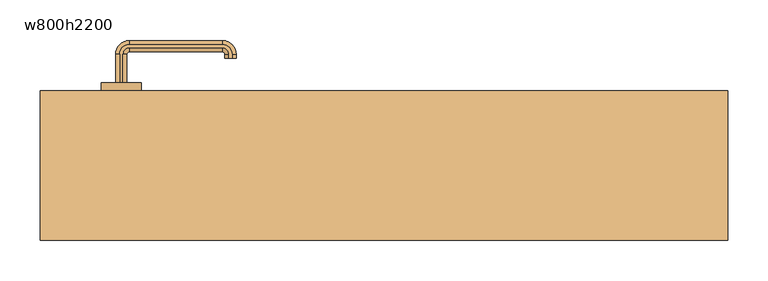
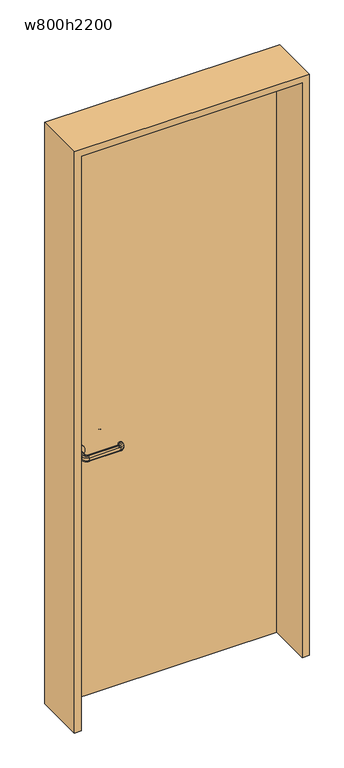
"""IFC4 building model written with IfcOpenShell, lengths in millimetres: door geometry, 片開き : w800h2200."""

from ifc_helpers import new_model, si_unit, point, frame, frame_2d, origin, origin_with_axes, place, context, project, spatial, polyline, circle_curve, ellipse_curve, trimmed, segment, composite_curve, outline, extrude, source, transform, mapped, element, save
from ifc_brep_helpers import plane_surface, cylinder_surface, revolved_surface, advanced_brep


def w800h2200_114c1d1d(model_context):
    return source(origin(), model_context, "Body", "SolidModel", [
        advanced_brep(
        [(-327.0, 102.5, 960.0), (-332.0, 102.5, 955.0), (-332.0, 102.5, 945.0477623), (-327.0, 102.5, 940.0477623), (-323.0, 102.5, 940.0477623), (-318.0, 102.5, 945.0477623), (-318.0, 102.5, 955.0), (-323.0, 102.5, 960.0), (-327.0, 137.5, 960.0), (-332.0, 137.5, 955.0), (-332.0, 137.5, 945.0477623), (-327.0, 137.5, 940.0477623), (-315.0, 149.5, 940.0477623), (-200.0, 149.5, 940.0477623), (-188.0, 137.5, 940.0477623), (-188.0, 132.5, 940.0477623), (-192.0, 132.5, 940.0477623), (-192.0, 137.5, 940.0477623), (-200.0, 145.5, 940.0477623), (-315.0, 145.5, 940.0477623), (-323.0, 137.5, 940.0477623), (-318.0, 137.5, 945.0477623), (-318.0, 137.5, 955.0), (-323.0, 137.5, 960.0), (-315.0, 145.5, 960.0), (-200.0, 145.5, 960.0), (-192.0, 137.5, 960.0), (-192.0, 132.5, 960.0), (-188.0, 132.5, 960.0), (-188.0, 137.5, 960.0), (-200.0, 149.5, 960.0), (-315.0, 149.5, 960.0), (-315.0, 154.5, 955.0), (-315.0, 154.5, 945.0477623), (-315.0, 140.5, 945.0477623), (-315.0, 140.5, 955.0), (-200.0, 154.5, 955.0), (-200.0, 154.5, 945.0477623), (-200.0, 140.5, 945.0477623), (-200.0, 140.5, 955.0), (-183.0, 137.5, 955.0), (-183.0, 137.5, 945.0477623), (-197.0, 137.5, 945.0477623), (-197.0, 137.5, 955.0), (-197.0, 132.5, 955.0), (-197.0, 132.5, 945.0477623), (-183.0, 132.5, 945.0477623), (-183.0, 132.5, 955.0)],
        [
            (0, 1, circle_curve(frame((-327.0, 102.5, 955.0), z_axis=(0.0, -1.0, 0.0), x_axis=(-1.0, 0.0, 0.0)), 5.0)),
            (1, 2),
            (2, 3, circle_curve(frame((-327.0, 102.5, 945.0477623), z_axis=(0.0, -1.0, 0.0), x_axis=(-1.0, 0.0, 0.0)), 5.0)),
            (3, 4),
            (4, 5, circle_curve(frame((-323.0, 102.5, 945.0477623), z_axis=(0.0, -1.0, 0.0), x_axis=(-1.0, 0.0, 0.0)), 5.0)),
            (5, 6),
            (6, 7, circle_curve(frame((-323.0, 102.5, 955.0), z_axis=(0.0, -1.0, 0.0), x_axis=(-1.0, 0.0, 0.0)), 5.0)),
            (7, 0),
            (0, 8),
            (8, 9, circle_curve(frame((-327.0, 137.5, 955.0), z_axis=(0.0, -1.0, 0.0), x_axis=(-1.0, 0.0, 0.0)), 5.0)),
            (9, 1),
            (9, 10),
            (10, 2),
            (10, 11, circle_curve(frame((-327.0, 137.5, 945.0477623), z_axis=(0.0, -1.0, 0.0), x_axis=(-1.0, 0.0, 0.0)), 5.0)),
            (11, 3),
            (11, 12, circle_curve(frame((-315.0, 137.5, 940.0477623), z_axis=(0.0, 0.0, -1.0), x_axis=(-1.0, 0.0, 0.0)), 12.0)),
            (12, 13),
            (13, 14, circle_curve(frame((-200.0, 137.5, 940.0477623), z_axis=(0.0, 0.0, -1.0), x_axis=(0.0, 1.0, 0.0)), 12.0)),
            (14, 15),
            (15, 16),
            (16, 17),
            (17, 18, circle_curve(frame((-200.0, 137.5, 940.0477623), z_axis=(0.0, 0.0, 1.0), x_axis=(0.0, 1.0, 0.0)), 8.0)),
            (18, 19),
            (19, 20, circle_curve(frame((-315.0, 137.5, 940.0477623), z_axis=(0.0, 0.0, 1.0), x_axis=(-1.0, 0.0, 0.0)), 8.0)),
            (20, 4),
            (20, 21, circle_curve(frame((-323.0, 137.5, 945.0477623), z_axis=(0.0, -1.0, 0.0), x_axis=(-1.0, 0.0, 0.0)), 5.0)),
            (21, 5),
            (21, 22),
            (22, 6),
            (22, 23, circle_curve(frame((-323.0, 137.5, 955.0), z_axis=(0.0, -1.0, 0.0), x_axis=(-1.0, 0.0, 0.0)), 5.0)),
            (23, 7),
            (23, 24, circle_curve(frame((-315.0, 137.5, 960.0), z_axis=(0.0, 0.0, -1.0), x_axis=(-1.0, 0.0, 0.0)), 8.0)),
            (24, 25),
            (25, 26, circle_curve(frame((-200.0, 137.5, 960.0), z_axis=(0.0, 0.0, -1.0), x_axis=(0.0, 1.0, 0.0)), 8.0)),
            (26, 27),
            (27, 28),
            (28, 29),
            (29, 30, circle_curve(frame((-200.0, 137.5, 960.0), z_axis=(0.0, 0.0, 1.0), x_axis=(0.0, 1.0, 0.0)), 12.0)),
            (30, 31),
            (31, 8, circle_curve(frame((-315.0, 137.5, 960.0), z_axis=(0.0, 0.0, 1.0), x_axis=(-1.0, 0.0, 0.0)), 12.0)),
            (32, 9, circle_curve(frame((-315.0, 137.5, 955.0), z_axis=(0.0, 0.0, 1.0), x_axis=(-1.0, 0.0, 0.0)), 17.0)),
            (31, 32, circle_curve(frame((-315.0, 149.5, 955.0), z_axis=(-1.0, 0.0, 0.0), x_axis=(0.0, 1.0, 0.0)), 5.0)),
            (33, 10, circle_curve(frame((-315.0, 137.5, 945.0477623), z_axis=(0.0, 0.0, 1.0), x_axis=(-1.0, 0.0, 0.0)), 17.0)),
            (32, 33),
            (33, 12, circle_curve(frame((-315.0, 149.5, 945.0477623), z_axis=(-1.0, 0.0, 0.0), x_axis=(0.0, 1.0, 0.0)), 5.0)),
            (34, 21, circle_curve(frame((-315.0, 137.5, 945.0477623), z_axis=(0.0, 0.0, 1.0), x_axis=(-1.0, 0.0, 0.0)), 3.0)),
            (19, 34, circle_curve(frame((-315.0, 145.5, 945.0477623), z_axis=(-1.0, 0.0, 0.0), x_axis=(0.0, 1.0, 0.0)), 5.0)),
            (35, 22, circle_curve(frame((-315.0, 137.5, 955.0), z_axis=(0.0, 0.0, 1.0), x_axis=(-1.0, 0.0, 0.0)), 3.0)),
            (34, 35),
            (35, 24, circle_curve(frame((-315.0, 145.5, 955.0), z_axis=(-1.0, 0.0, 0.0), x_axis=(0.0, 1.0, 0.0)), 5.0)),
            (30, 36, circle_curve(frame((-200.0, 149.5, 955.0), z_axis=(-1.0, 0.0, 0.0), x_axis=(0.0, 1.0, 0.0)), 5.0)),
            (36, 32),
            (36, 37),
            (37, 33),
            (37, 13, circle_curve(frame((-200.0, 149.5, 945.0477623), z_axis=(-1.0, 0.0, 0.0), x_axis=(0.0, 1.0, 0.0)), 5.0)),
            (18, 38, circle_curve(frame((-200.0, 145.5, 945.0477623), z_axis=(-1.0, 0.0, 0.0), x_axis=(0.0, 1.0, 0.0)), 5.0)),
            (38, 34),
            (38, 39),
            (39, 35),
            (39, 25, circle_curve(frame((-200.0, 145.5, 955.0), z_axis=(-1.0, 0.0, 0.0), x_axis=(0.0, 1.0, 0.0)), 5.0)),
            (40, 36, circle_curve(frame((-200.0, 137.5, 955.0), z_axis=(0.0, 0.0, 1.0), x_axis=(0.0, 1.0, 0.0)), 17.0)),
            (29, 40, circle_curve(frame((-188.0, 137.5, 955.0), z_axis=(0.0, 1.0, 0.0), x_axis=(1.0, 0.0, 0.0)), 5.0)),
            (41, 37, circle_curve(frame((-200.0, 137.5, 945.0477623), z_axis=(0.0, 0.0, 1.0), x_axis=(0.0, 1.0, 0.0)), 17.0)),
            (40, 41),
            (41, 14, circle_curve(frame((-188.0, 137.5, 945.0477623), z_axis=(0.0, 1.0, 0.0), x_axis=(1.0, 0.0, 0.0)), 5.0)),
            (42, 38, circle_curve(frame((-200.0, 137.5, 945.0477623), z_axis=(0.0, 0.0, 1.0), x_axis=(0.0, 1.0, 0.0)), 3.0)),
            (17, 42, circle_curve(frame((-192.0, 137.5, 945.0477623), z_axis=(0.0, 1.0, 0.0), x_axis=(1.0, 0.0, 0.0)), 5.0)),
            (43, 39, circle_curve(frame((-200.0, 137.5, 955.0), z_axis=(0.0, 0.0, 1.0), x_axis=(0.0, 1.0, 0.0)), 3.0)),
            (42, 43),
            (43, 26, circle_curve(frame((-192.0, 137.5, 955.0), z_axis=(0.0, 1.0, 0.0), x_axis=(1.0, 0.0, 0.0)), 5.0)),
            (27, 44, circle_curve(frame((-192.0, 132.5, 955.0), z_axis=(0.0, -1.0, 0.0), x_axis=(1.0, 0.0, 0.0)), 5.0)),
            (44, 45),
            (45, 16, circle_curve(frame((-192.0, 132.5, 945.0477623), z_axis=(0.0, -1.0, 0.0), x_axis=(1.0, 0.0, 0.0)), 5.0)),
            (15, 46, circle_curve(frame((-188.0, 132.5, 945.0477623), z_axis=(0.0, -1.0, 0.0), x_axis=(1.0, 0.0, 0.0)), 5.0)),
            (46, 47),
            (47, 28, circle_curve(frame((-188.0, 132.5, 955.0), z_axis=(0.0, -1.0, 0.0), x_axis=(1.0, 0.0, 0.0)), 5.0)),
            (47, 40),
            (46, 41),
            (45, 42),
            (44, 43),
        ],
        [
            plane_surface(frame((-335.198039, 102.5, 950.0), z_axis=(0.0, -1.0, 0.0), x_axis=(0.0, 0.0, 1.0))),
            cylinder_surface(frame((-327.0, 102.5, 955.0), z_axis=(0.0, -1.0, 0.0), x_axis=(-1.0, 0.0, 0.0)), 5.0),
            plane_surface(frame((-332.0, 102.5, 955.0), z_axis=(-1.0, 0.0, 0.0), x_axis=(0.0, 1.0, 0.0))),
            cylinder_surface(frame((-327.0, 102.5, 945.0477623), z_axis=(0.0, -1.0, 0.0), x_axis=(-1.0, 0.0, 0.0)), 5.0),
            plane_surface(frame((-327.0, 102.5, 940.0477623), z_axis=(0.0, 0.0, -1.0), x_axis=(0.0, 1.0, 0.0))),
            cylinder_surface(frame((-323.0, 102.5, 945.0477623), z_axis=(0.0, -1.0, 0.0), x_axis=(-1.0, 0.0, 0.0)), 5.0),
            plane_surface(frame((-318.0, 102.5, 945.0477623), z_axis=(1.0, 0.0, 0.0), x_axis=(0.0, 1.0, 0.0))),
            cylinder_surface(frame((-323.0, 102.5, 955.0), z_axis=(0.0, -1.0, 0.0), x_axis=(-1.0, 0.0, 0.0)), 5.0),
            plane_surface(frame((-323.0, 102.5, 960.0), z_axis=(0.0, 0.0, 1.0), x_axis=(0.0, 1.0, 0.0))),
            revolved_surface(trimmed(ellipse_curve(frame((-327.0, 137.5, 955.0), z_axis=(0.0, -1.0, 0.0), x_axis=(-1.0, 0.0, 0.0)), 5.0, 5.0), [point((-327.0, 137.5, 960.0))], [point((-332.0, 137.5, 955.0))], True, "CARTESIAN"), (-315.0, 137.5, 950.0), (0.0, 0.0, -1.0)),
            cylinder_surface(frame((-315.0, 137.5, 950.0), z_axis=(0.0, 0.0, -1.0), x_axis=(-1.0, 0.0, 0.0)), 17.0),
            revolved_surface(trimmed(ellipse_curve(frame((-327.0, 137.5, 945.0477623), z_axis=(0.0, -1.0, 0.0), x_axis=(-1.0, 0.0, 0.0)), 5.0, 5.0), [point((-332.0, 137.5, 945.0477623))], [point((-327.0, 137.5, 940.0477623))], True, "CARTESIAN"), (-315.0, 137.5, 950.0), (0.0, 0.0, -1.0)),
            revolved_surface(trimmed(ellipse_curve(frame((-323.0, 137.5, 945.0477623), z_axis=(0.0, -1.0, 0.0), x_axis=(-1.0, 0.0, 0.0)), 5.0, 5.0), [point((-323.0, 137.5, 940.0477623))], [point((-318.0, 137.5, 945.0477623))], True, "CARTESIAN"), (-315.0, 137.5, 950.0), (0.0, 0.0, -1.0)),
            revolved_surface(polyline([(-318.0, 137.5, 945.0477623), (-318.0, 137.5, 955.0)]), (-315.0, 137.5, 950.0), (0.0, 0.0, -1.0)),
            revolved_surface(trimmed(ellipse_curve(frame((-323.0, 137.5, 955.0), z_axis=(0.0, -1.0, 0.0), x_axis=(-1.0, 0.0, 0.0)), 5.0, 5.0), [point((-318.0, 137.5, 955.0))], [point((-323.0, 137.5, 960.0))], True, "CARTESIAN"), (-315.0, 137.5, 950.0), (0.0, 0.0, -1.0)),
            cylinder_surface(frame((-315.0, 149.5, 955.0), z_axis=(-1.0, 0.0, 0.0), x_axis=(0.0, 1.0, 0.0)), 5.0),
            plane_surface(frame((-315.0, 154.5, 955.0), z_axis=(0.0, 1.0, 0.0), x_axis=(1.0, 0.0, 0.0))),
            cylinder_surface(frame((-315.0, 149.5, 945.0477623), z_axis=(-1.0, 0.0, 0.0), x_axis=(0.0, 1.0, 0.0)), 5.0),
            cylinder_surface(frame((-315.0, 145.5, 945.0477623), z_axis=(-1.0, 0.0, 0.0), x_axis=(0.0, 1.0, 0.0)), 5.0),
            plane_surface(frame((-315.0, 140.5, 945.0477623), z_axis=(0.0, -1.0, 0.0), x_axis=(1.0, 0.0, 0.0))),
            cylinder_surface(frame((-315.0, 145.5, 955.0), z_axis=(-1.0, 0.0, 0.0), x_axis=(0.0, 1.0, 0.0)), 5.0),
            revolved_surface(trimmed(ellipse_curve(frame((-200.0, 149.5, 955.0), z_axis=(-1.0, 0.0, 0.0), x_axis=(0.0, 1.0, 0.0)), 5.0, 5.0), [point((-200.0, 149.5, 960.0))], [point((-200.0, 154.5, 955.0))], True, "CARTESIAN"), (-200.0, 137.5, 950.0), (0.0, 0.0, -1.0)),
            cylinder_surface(frame((-200.0, 137.5, 950.0), z_axis=(0.0, 0.0, -1.0), x_axis=(0.0, 1.0, 0.0)), 17.0),
            revolved_surface(trimmed(ellipse_curve(frame((-200.0, 149.5, 945.0477623), z_axis=(-1.0, 0.0, 0.0), x_axis=(0.0, 1.0, 0.0)), 5.0, 5.0), [point((-200.0, 154.5, 945.0477623))], [point((-200.0, 149.5, 940.0477623))], True, "CARTESIAN"), (-200.0, 137.5, 950.0), (0.0, 0.0, -1.0)),
            revolved_surface(trimmed(ellipse_curve(frame((-200.0, 145.5, 945.0477623), z_axis=(-1.0, 0.0, 0.0), x_axis=(0.0, 1.0, 0.0)), 5.0, 5.0), [point((-200.0, 145.5, 940.0477623))], [point((-200.0, 140.5, 945.0477623))], True, "CARTESIAN"), (-200.0, 137.5, 950.0), (0.0, 0.0, -1.0)),
            revolved_surface(polyline([(-200.0, 140.5, 945.0477623), (-200.0, 140.5, 955.0)]), (-200.0, 137.5, 950.0), (0.0, 0.0, -1.0)),
            revolved_surface(trimmed(ellipse_curve(frame((-200.0, 145.5, 955.0), z_axis=(-1.0, 0.0, 0.0), x_axis=(0.0, 1.0, 0.0)), 5.0, 5.0), [point((-200.0, 140.5, 955.0))], [point((-200.0, 145.5, 960.0))], True, "CARTESIAN"), (-200.0, 137.5, 950.0), (0.0, 0.0, -1.0)),
            plane_surface(frame((-200.198039, 132.5, 950.0), z_axis=(0.0, -1.0, 0.0), x_axis=(0.0, 0.0, -1.0))),
            cylinder_surface(frame((-188.0, 137.5, 955.0), z_axis=(0.0, 1.0, 0.0), x_axis=(1.0, 0.0, 0.0)), 5.0),
            plane_surface(frame((-183.0, 137.5, 955.0), z_axis=(1.0, 0.0, 0.0), x_axis=(0.0, -1.0, 0.0))),
            cylinder_surface(frame((-188.0, 137.5, 945.0477623), z_axis=(0.0, 1.0, 0.0), x_axis=(1.0, 0.0, 0.0)), 5.0),
            cylinder_surface(frame((-192.0, 137.5, 945.0477623), z_axis=(0.0, 1.0, 0.0), x_axis=(1.0, 0.0, 0.0)), 5.0),
            plane_surface(frame((-197.0, 137.5, 945.0477623), z_axis=(-1.0, 0.0, 0.0), x_axis=(0.0, -1.0, 0.0))),
            cylinder_surface(frame((-192.0, 137.5, 955.0), z_axis=(0.0, 1.0, 0.0), x_axis=(1.0, 0.0, 0.0)), 5.0),
        ],
        [
            (0, [[1, 2, 3, 4, 5, 6, 7, 8]]),
            (1, [[-1, 9, 10, 11]]),
            (2, [[-2, -11, 12, 13]]),
            (3, [[-3, -13, 14, 15]]),
            (4, [[-4, -15, 16, 17, 18, 19, 20, 21, 22, 23, 24, 25]]),
            (5, [[-5, -25, 26, 27]]),
            (6, [[-6, -27, 28, 29]]),
            (7, [[-7, -29, 30, 31]]),
            (8, [[-8, -31, 32, 33, 34, 35, 36, 37, 38, 39, 40, -9]]),
            (9, [[41, -10, -40, 42]]),
            (10, [[43, -12, -41, 44]]),
            (11, [[-16, -14, -43, 45]]),
            (12, [[46, -26, -24, 47]]),
            (13, [[48, -28, -46, 49]]),
            (14, [[-32, -30, -48, 50]]),
            (15, [[-42, -39, 51, 52]]),
            (16, [[-44, -52, 53, 54]]),
            (17, [[-45, -54, 55, -17]]),
            (18, [[-47, -23, 56, 57]]),
            (19, [[-49, -57, 58, 59]]),
            (20, [[-50, -59, 60, -33]]),
            (21, [[61, -51, -38, 62]]),
            (22, [[63, -53, -61, 64]]),
            (23, [[-18, -55, -63, 65]]),
            (24, [[66, -56, -22, 67]]),
            (25, [[68, -58, -66, 69]]),
            (26, [[-34, -60, -68, 70]]),
            (27, [[-36, 71, 72, 73, -20, 74, 75, 76]]),
            (28, [[-62, -37, -76, 77]]),
            (29, [[-64, -77, -75, 78]]),
            (30, [[-65, -78, -74, -19]]),
            (31, [[-67, -21, -73, 79]]),
            (32, [[-69, -79, -72, 80]]),
            (33, [[-70, -80, -71, -35]]),
        ],
    ),
        advanced_brep(
        [(-323.0, 57.5, 940.0), (-327.0, 57.5, 940.0), (-332.0, 57.5, 945.0), (-332.0, 57.5, 955.0), (-327.0, 57.5, 960.0), (-323.0, 57.5, 960.0), (-318.0, 57.5, 955.0), (-318.0, 57.5, 945.0), (-323.0, 22.5, 940.0), (-315.0, 14.5, 940.0), (-200.0, 14.5, 940.0), (-192.0, 22.5, 940.0), (-192.0, 27.5, 940.0), (-188.0, 27.5, 940.0), (-188.0, 22.5, 940.0), (-200.0, 10.5, 940.0), (-315.0, 10.5, 940.0), (-327.0, 22.5, 940.0), (-332.0, 22.5, 945.0), (-332.0, 22.5, 955.0), (-327.0, 22.5, 960.0), (-315.0, 10.5, 960.0), (-200.0, 10.5, 960.0), (-188.0, 22.5, 960.0), (-188.0, 27.5, 960.0), (-192.0, 27.5, 960.0), (-192.0, 22.5, 960.0), (-200.0, 14.5, 960.0), (-315.0, 14.5, 960.0), (-323.0, 22.5, 960.0), (-318.0, 22.5, 955.0), (-318.0, 22.5, 945.0), (-315.0, 5.5, 945.0), (-315.0, 5.5, 955.0), (-315.0, 19.5, 955.0), (-315.0, 19.5, 945.0), (-200.0, 5.5, 945.0), (-200.0, 5.5, 955.0), (-200.0, 19.5, 955.0), (-200.0, 19.5, 945.0), (-183.0, 22.5, 945.0), (-183.0, 22.5, 955.0), (-197.0, 22.5, 955.0), (-197.0, 22.5, 945.0), (-197.0, 27.5, 945.0), (-197.0, 27.5, 955.0), (-183.0, 27.5, 955.0), (-183.0, 27.5, 945.0)],
        [
            (0, 1),
            (1, 2, circle_curve(frame((-327.0, 57.5, 945.0), z_axis=(0.0, 1.0, 0.0), x_axis=(1.0, 0.0, 0.0)), 5.0)),
            (2, 3),
            (3, 4, circle_curve(frame((-327.0, 57.5, 955.0), z_axis=(0.0, 1.0, 0.0), x_axis=(1.0, 0.0, 0.0)), 5.0)),
            (4, 5),
            (5, 6, circle_curve(frame((-323.0, 57.5, 955.0), z_axis=(0.0, 1.0, 0.0), x_axis=(1.0, 0.0, 0.0)), 5.0)),
            (6, 7),
            (7, 0, circle_curve(frame((-323.0, 57.5, 945.0), z_axis=(0.0, 1.0, 0.0), x_axis=(1.0, 0.0, 0.0)), 5.0)),
            (0, 8),
            (8, 9, circle_curve(frame((-315.0, 22.5, 940.0), z_axis=(0.0, 0.0, 1.0), x_axis=(-1.0, 0.0, 0.0)), 8.0)),
            (9, 10),
            (10, 11, circle_curve(frame((-200.0, 22.5, 940.0), z_axis=(0.0, 0.0, 1.0), x_axis=(0.0, -1.0, 0.0)), 8.0)),
            (11, 12),
            (12, 13),
            (13, 14),
            (14, 15, circle_curve(frame((-200.0, 22.5, 940.0), z_axis=(0.0, 0.0, -1.0), x_axis=(0.0, -1.0, 0.0)), 12.0)),
            (15, 16),
            (16, 17, circle_curve(frame((-315.0, 22.5, 940.0), z_axis=(0.0, 0.0, -1.0), x_axis=(-1.0, 0.0, 0.0)), 12.0)),
            (17, 1),
            (17, 18, circle_curve(frame((-327.0, 22.5, 945.0), z_axis=(0.0, 1.0, 0.0), x_axis=(1.0, 0.0, 0.0)), 5.0)),
            (18, 2),
            (18, 19),
            (19, 3),
            (19, 20, circle_curve(frame((-327.0, 22.5, 955.0), z_axis=(0.0, 1.0, 0.0), x_axis=(1.0, 0.0, 0.0)), 5.0)),
            (20, 4),
            (20, 21, circle_curve(frame((-315.0, 22.5, 960.0), z_axis=(0.0, 0.0, 1.0), x_axis=(-1.0, 0.0, 0.0)), 12.0)),
            (21, 22),
            (22, 23, circle_curve(frame((-200.0, 22.5, 960.0), z_axis=(0.0, 0.0, 1.0), x_axis=(0.0, -1.0, 0.0)), 12.0)),
            (23, 24),
            (24, 25),
            (25, 26),
            (26, 27, circle_curve(frame((-200.0, 22.5, 960.0), z_axis=(0.0, 0.0, -1.0), x_axis=(0.0, -1.0, 0.0)), 8.0)),
            (27, 28),
            (28, 29, circle_curve(frame((-315.0, 22.5, 960.0), z_axis=(0.0, 0.0, -1.0), x_axis=(-1.0, 0.0, 0.0)), 8.0)),
            (29, 5),
            (29, 30, circle_curve(frame((-323.0, 22.5, 955.0), z_axis=(0.0, 1.0, 0.0), x_axis=(1.0, 0.0, 0.0)), 5.0)),
            (30, 6),
            (30, 31),
            (31, 7),
            (31, 8, circle_curve(frame((-323.0, 22.5, 945.0), z_axis=(0.0, 1.0, 0.0), x_axis=(1.0, 0.0, 0.0)), 5.0)),
            (32, 18, circle_curve(frame((-315.0, 22.5, 945.0), z_axis=(0.0, 0.0, -1.0), x_axis=(-1.0, 0.0, 0.0)), 17.0)),
            (16, 32, circle_curve(frame((-315.0, 10.5, 945.0), z_axis=(-1.0, 0.0, 0.0), x_axis=(0.0, 1.0, 0.0)), 5.0)),
            (33, 19, circle_curve(frame((-315.0, 22.5, 955.0), z_axis=(0.0, 0.0, -1.0), x_axis=(-1.0, 0.0, 0.0)), 17.0)),
            (32, 33),
            (33, 21, circle_curve(frame((-315.0, 10.5, 955.0), z_axis=(-1.0, 0.0, 0.0), x_axis=(0.0, 1.0, 0.0)), 5.0)),
            (34, 30, circle_curve(frame((-315.0, 22.5, 955.0), z_axis=(0.0, 0.0, -1.0), x_axis=(-1.0, 0.0, 0.0)), 3.0)),
            (28, 34, circle_curve(frame((-315.0, 14.5, 955.0), z_axis=(-1.0, 0.0, 0.0), x_axis=(0.0, 1.0, 0.0)), 5.0)),
            (35, 31, circle_curve(frame((-315.0, 22.5, 945.0), z_axis=(0.0, 0.0, -1.0), x_axis=(-1.0, 0.0, 0.0)), 3.0)),
            (34, 35),
            (35, 9, circle_curve(frame((-315.0, 14.5, 945.0), z_axis=(-1.0, 0.0, 0.0), x_axis=(0.0, 1.0, 0.0)), 5.0)),
            (15, 36, circle_curve(frame((-200.0, 10.5, 945.0), z_axis=(-1.0, 0.0, 0.0), x_axis=(0.0, 1.0, 0.0)), 5.0)),
            (36, 32),
            (36, 37),
            (37, 33),
            (37, 22, circle_curve(frame((-200.0, 10.5, 955.0), z_axis=(-1.0, 0.0, 0.0), x_axis=(0.0, 1.0, 0.0)), 5.0)),
            (27, 38, circle_curve(frame((-200.0, 14.5, 955.0), z_axis=(-1.0, 0.0, 0.0), x_axis=(0.0, 1.0, 0.0)), 5.0)),
            (38, 34),
            (38, 39),
            (39, 35),
            (39, 10, circle_curve(frame((-200.0, 14.5, 945.0), z_axis=(-1.0, 0.0, 0.0), x_axis=(0.0, 1.0, 0.0)), 5.0)),
            (40, 36, circle_curve(frame((-200.0, 22.5, 945.0), z_axis=(0.0, 0.0, -1.0), x_axis=(0.0, -1.0, 0.0)), 17.0)),
            (14, 40, circle_curve(frame((-188.0, 22.5, 945.0), z_axis=(0.0, -1.0, 0.0), x_axis=(-1.0, 0.0, 0.0)), 5.0)),
            (41, 37, circle_curve(frame((-200.0, 22.5, 955.0), z_axis=(0.0, 0.0, -1.0), x_axis=(0.0, -1.0, 0.0)), 17.0)),
            (40, 41),
            (41, 23, circle_curve(frame((-188.0, 22.5, 955.0), z_axis=(0.0, -1.0, 0.0), x_axis=(-1.0, 0.0, 0.0)), 5.0)),
            (42, 38, circle_curve(frame((-200.0, 22.5, 955.0), z_axis=(0.0, 0.0, -1.0), x_axis=(0.0, -1.0, 0.0)), 3.0)),
            (26, 42, circle_curve(frame((-192.0, 22.5, 955.0), z_axis=(0.0, -1.0, 0.0), x_axis=(-1.0, 0.0, 0.0)), 5.0)),
            (43, 39, circle_curve(frame((-200.0, 22.5, 945.0), z_axis=(0.0, 0.0, -1.0), x_axis=(0.0, -1.0, 0.0)), 3.0)),
            (42, 43),
            (43, 11, circle_curve(frame((-192.0, 22.5, 945.0), z_axis=(0.0, -1.0, 0.0), x_axis=(-1.0, 0.0, 0.0)), 5.0)),
            (12, 44, circle_curve(frame((-192.0, 27.5, 945.0), z_axis=(0.0, 1.0, 0.0), x_axis=(-1.0, 0.0, 0.0)), 5.0)),
            (44, 45),
            (45, 25, circle_curve(frame((-192.0, 27.5, 955.0), z_axis=(0.0, 1.0, 0.0), x_axis=(-1.0, 0.0, 0.0)), 5.0)),
            (24, 46, circle_curve(frame((-188.0, 27.5, 955.0), z_axis=(0.0, 1.0, 0.0), x_axis=(-1.0, 0.0, 0.0)), 5.0)),
            (46, 47),
            (47, 13, circle_curve(frame((-188.0, 27.5, 945.0), z_axis=(0.0, 1.0, 0.0), x_axis=(-1.0, 0.0, 0.0)), 5.0)),
            (47, 40),
            (46, 41),
            (45, 42),
            (44, 43),
        ],
        [
            plane_surface(frame((-335.198039, 57.5, 950.0), z_axis=(0.0, 1.0, 0.0), x_axis=(0.0, 0.0, -1.0))),
            plane_surface(frame((-323.0, 57.5, 940.0), z_axis=(0.0, 0.0, -1.0), x_axis=(0.0, -1.0, 0.0))),
            cylinder_surface(frame((-327.0, 57.5, 945.0), z_axis=(0.0, 1.0, 0.0), x_axis=(1.0, 0.0, 0.0)), 5.0),
            plane_surface(frame((-332.0, 57.5, 945.0), z_axis=(-1.0, 0.0, 0.0), x_axis=(0.0, -1.0, 0.0))),
            cylinder_surface(frame((-327.0, 57.5, 955.0), z_axis=(0.0, 1.0, 0.0), x_axis=(1.0, 0.0, 0.0)), 5.0),
            plane_surface(frame((-327.0, 57.5, 960.0), z_axis=(0.0, 0.0, 1.0), x_axis=(0.0, -1.0, 0.0))),
            cylinder_surface(frame((-323.0, 57.5, 955.0), z_axis=(0.0, 1.0, 0.0), x_axis=(1.0, 0.0, 0.0)), 5.0),
            plane_surface(frame((-318.0, 57.5, 955.0), z_axis=(1.0, 0.0, 0.0), x_axis=(0.0, -1.0, 0.0))),
            cylinder_surface(frame((-323.0, 57.5, 945.0), z_axis=(0.0, 1.0, 0.0), x_axis=(1.0, 0.0, 0.0)), 5.0),
            revolved_surface(trimmed(ellipse_curve(frame((-327.0, 22.5, 945.0), z_axis=(0.0, 1.0, 0.0), x_axis=(1.0, 0.0, 0.0)), 5.0, 5.0), [point((-327.0, 22.5, 940.0))], [point((-332.0, 22.5, 945.0))], True, "CARTESIAN"), (-315.0, 22.5, 950.0), (0.0, 0.0, 1.0)),
            cylinder_surface(frame((-315.0, 22.5, 950.0), z_axis=(0.0, 0.0, 1.0), x_axis=(-1.0, 0.0, 0.0)), 17.0),
            revolved_surface(trimmed(ellipse_curve(frame((-327.0, 22.5, 955.0), z_axis=(0.0, 1.0, 0.0), x_axis=(1.0, 0.0, 0.0)), 5.0, 5.0), [point((-332.0, 22.5, 955.0))], [point((-327.0, 22.5, 960.0))], True, "CARTESIAN"), (-315.0, 22.5, 950.0), (0.0, 0.0, 1.0)),
            revolved_surface(trimmed(ellipse_curve(frame((-323.0, 22.5, 955.0), z_axis=(0.0, 1.0, 0.0), x_axis=(1.0, 0.0, 0.0)), 5.0, 5.0), [point((-323.0, 22.5, 960.0))], [point((-318.0, 22.5, 955.0))], True, "CARTESIAN"), (-315.0, 22.5, 950.0), (0.0, 0.0, 1.0)),
            revolved_surface(polyline([(-318.0, 22.5, 955.0), (-318.0, 22.5, 945.0)]), (-315.0, 22.5, 950.0), (0.0, 0.0, 1.0)),
            revolved_surface(trimmed(ellipse_curve(frame((-323.0, 22.5, 945.0), z_axis=(0.0, 1.0, 0.0), x_axis=(1.0, 0.0, 0.0)), 5.0, 5.0), [point((-318.0, 22.5, 945.0))], [point((-323.0, 22.5, 940.0))], True, "CARTESIAN"), (-315.0, 22.5, 950.0), (0.0, 0.0, 1.0)),
            cylinder_surface(frame((-315.0, 10.5, 945.0), z_axis=(-1.0, 0.0, 0.0), x_axis=(0.0, 1.0, 0.0)), 5.0),
            plane_surface(frame((-315.0, 5.5, 945.0), z_axis=(0.0, -1.0, 0.0), x_axis=(1.0, 0.0, 0.0))),
            cylinder_surface(frame((-315.0, 10.5, 955.0), z_axis=(-1.0, 0.0, 0.0), x_axis=(0.0, 1.0, 0.0)), 5.0),
            cylinder_surface(frame((-315.0, 14.5, 955.0), z_axis=(-1.0, 0.0, 0.0), x_axis=(0.0, 1.0, 0.0)), 5.0),
            plane_surface(frame((-315.0, 19.5, 955.0), z_axis=(0.0, 1.0, 0.0), x_axis=(1.0, 0.0, 0.0))),
            cylinder_surface(frame((-315.0, 14.5, 945.0), z_axis=(-1.0, 0.0, 0.0), x_axis=(0.0, 1.0, 0.0)), 5.0),
            revolved_surface(trimmed(ellipse_curve(frame((-200.0, 10.5, 945.0), z_axis=(-1.0, 0.0, 0.0), x_axis=(0.0, 1.0, 0.0)), 5.0, 5.0), [point((-200.0, 10.5, 940.0))], [point((-200.0, 5.5, 945.0))], True, "CARTESIAN"), (-200.0, 22.5, 950.0), (0.0, 0.0, 1.0)),
            cylinder_surface(frame((-200.0, 22.5, 950.0), z_axis=(0.0, 0.0, 1.0), x_axis=(0.0, -1.0, 0.0)), 17.0),
            revolved_surface(trimmed(ellipse_curve(frame((-200.0, 10.5, 955.0), z_axis=(-1.0, 0.0, 0.0), x_axis=(0.0, 1.0, 0.0)), 5.0, 5.0), [point((-200.0, 5.5, 955.0))], [point((-200.0, 10.5, 960.0))], True, "CARTESIAN"), (-200.0, 22.5, 950.0), (0.0, 0.0, 1.0)),
            revolved_surface(trimmed(ellipse_curve(frame((-200.0, 14.5, 955.0), z_axis=(-1.0, 0.0, 0.0), x_axis=(0.0, 1.0, 0.0)), 5.0, 5.0), [point((-200.0, 14.5, 960.0))], [point((-200.0, 19.5, 955.0))], True, "CARTESIAN"), (-200.0, 22.5, 950.0), (0.0, 0.0, 1.0)),
            revolved_surface(polyline([(-200.0, 19.5, 955.0), (-200.0, 19.5, 945.0)]), (-200.0, 22.5, 950.0), (0.0, 0.0, 1.0)),
            revolved_surface(trimmed(ellipse_curve(frame((-200.0, 14.5, 945.0), z_axis=(-1.0, 0.0, 0.0), x_axis=(0.0, 1.0, 0.0)), 5.0, 5.0), [point((-200.0, 19.5, 945.0))], [point((-200.0, 14.5, 940.0))], True, "CARTESIAN"), (-200.0, 22.5, 950.0), (0.0, 0.0, 1.0)),
            plane_surface(frame((-200.198039, 27.5, 950.0), z_axis=(0.0, 1.0, 0.0), x_axis=(0.0, 0.0, 1.0))),
            cylinder_surface(frame((-188.0, 22.5, 945.0), z_axis=(0.0, -1.0, 0.0), x_axis=(-1.0, 0.0, 0.0)), 5.0),
            plane_surface(frame((-183.0, 22.5, 945.0), z_axis=(1.0, 0.0, 0.0), x_axis=(0.0, 1.0, 0.0))),
            cylinder_surface(frame((-188.0, 22.5, 955.0), z_axis=(0.0, -1.0, 0.0), x_axis=(-1.0, 0.0, 0.0)), 5.0),
            cylinder_surface(frame((-192.0, 22.5, 955.0), z_axis=(0.0, -1.0, 0.0), x_axis=(-1.0, 0.0, 0.0)), 5.0),
            plane_surface(frame((-197.0, 22.5, 955.0), z_axis=(-1.0, 0.0, 0.0), x_axis=(0.0, 1.0, 0.0))),
            cylinder_surface(frame((-192.0, 22.5, 945.0), z_axis=(0.0, -1.0, 0.0), x_axis=(-1.0, 0.0, 0.0)), 5.0),
        ],
        [
            (0, [[1, 2, 3, 4, 5, 6, 7, 8]]),
            (1, [[-1, 9, 10, 11, 12, 13, 14, 15, 16, 17, 18, 19]]),
            (2, [[-2, -19, 20, 21]]),
            (3, [[-3, -21, 22, 23]]),
            (4, [[-4, -23, 24, 25]]),
            (5, [[-5, -25, 26, 27, 28, 29, 30, 31, 32, 33, 34, 35]]),
            (6, [[-6, -35, 36, 37]]),
            (7, [[-7, -37, 38, 39]]),
            (8, [[-8, -39, 40, -9]]),
            (9, [[41, -20, -18, 42]]),
            (10, [[43, -22, -41, 44]]),
            (11, [[-26, -24, -43, 45]]),
            (12, [[46, -36, -34, 47]]),
            (13, [[48, -38, -46, 49]]),
            (14, [[-10, -40, -48, 50]]),
            (15, [[-42, -17, 51, 52]]),
            (16, [[-44, -52, 53, 54]]),
            (17, [[-45, -54, 55, -27]]),
            (18, [[-47, -33, 56, 57]]),
            (19, [[-49, -57, 58, 59]]),
            (20, [[-50, -59, 60, -11]]),
            (21, [[61, -51, -16, 62]]),
            (22, [[63, -53, -61, 64]]),
            (23, [[-28, -55, -63, 65]]),
            (24, [[66, -56, -32, 67]]),
            (25, [[68, -58, -66, 69]]),
            (26, [[-12, -60, -68, 70]]),
            (27, [[71, 72, 73, -30, 74, 75, 76, -14]]),
            (28, [[-62, -15, -76, 77]]),
            (29, [[-64, -77, -75, 78]]),
            (30, [[-65, -78, -74, -29]]),
            (31, [[-67, -31, -73, 79]]),
            (32, [[-69, -79, -72, 80]]),
            (33, [[-70, -80, -71, -13]]),
        ],
    ),
        extrude(outline(composite_curve([segment(trimmed(circle_curve(frame_2d((950.0, -325.0)), 25.0), [point((950.0, -350.0))], [point((950.0, -300.0))], False, "CARTESIAN"), True, "CONTINUOUS"), segment(trimmed(circle_curve(frame_2d((950.0, -325.0)), 25.0), [point((950.0, -300.0))], [point((950.0, -350.0))], False, "CARTESIAN"), True, "CONTINUOUS")], self_intersect=False)), frame((0.0, 92.5, 0.0), z_axis=(0.0, 1.0, 0.0), x_axis=(0.0, 0.0, 1.0)), (0.0, 0.0, 1.0), 10.0),
        extrude(outline(composite_curve([segment(trimmed(circle_curve(frame_2d((950.0, -325.0)), 25.0), [point((950.0, -350.0))], [point((950.0, -300.0))], False, "CARTESIAN"), True, "CONTINUOUS"), segment(trimmed(circle_curve(frame_2d((950.0, -325.0)), 25.0), [point((950.0, -300.0))], [point((950.0, -350.0))], False, "CARTESIAN"), True, "CONTINUOUS")], self_intersect=False)), frame((0.0, 57.5, 0.0), z_axis=(0.0, 1.0, 0.0), x_axis=(0.0, 0.0, 1.0)), (0.0, 0.0, 1.0), 10.0),
        extrude(outline(polyline([(400.0, 67.5), (-400.0, 67.5), (-400.0, 92.5), (400.0, 92.5), (400.0, 67.5)])), origin_with_axes(), (0.0, 0.0, 1.0), 2200.0),
        extrude(outline(polyline([(2225.0, -425.0), (0.0, -425.0), (0.0, -400.0), (2200.0, -400.0), (2200.0, 400.0), (0.0, 400.0), (0.0, 425.0), (2225.0, 425.0), (2225.0, -425.0)])), frame((0.0, -92.5, 0.0), z_axis=(0.0, 1.0, 0.0), x_axis=(0.0, 0.0, 1.0)), (0.0, 0.0, 1.0), 185.0),
    ])


if __name__ == "__main__":
    model = new_model("IFC4")
    model_context = context("Model", 3, world=origin())
    ifc_project = project(units=[si_unit("LENGTHUNIT", "METRE", prefix="MILLI")], contexts=[model_context])
    site = spatial("IfcSite", under=ifc_project)
    building = spatial("IfcBuilding", under=site)
    placement = place(None, origin())
    w800h2200_shape = w800h2200_114c1d1d(model_context)
    element("IfcDoor", 1, ObjectType="片開き : w800h2200", at=placement, inside=building, context=model_context, shape_type="MappedRepresentation", body=[
        mapped(w800h2200_shape, transform((0.0, 0.0, 0.0), x_axis=(1.0, 0.0, 0.0), y_axis=(0.0, 1.0, 0.0), z_axis=(0.0, 0.0, 1.0))),
    ])
    save(model, "model.ifc")
